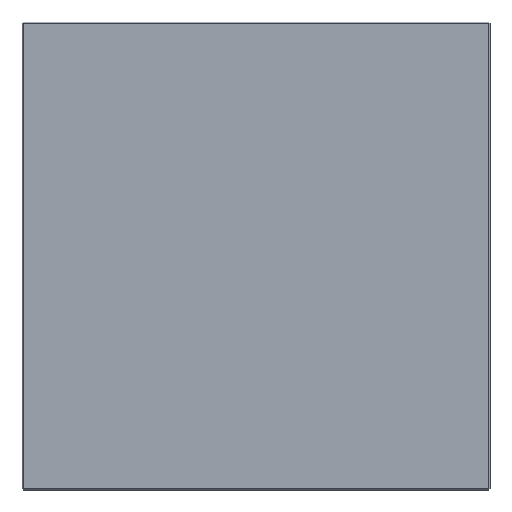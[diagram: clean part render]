
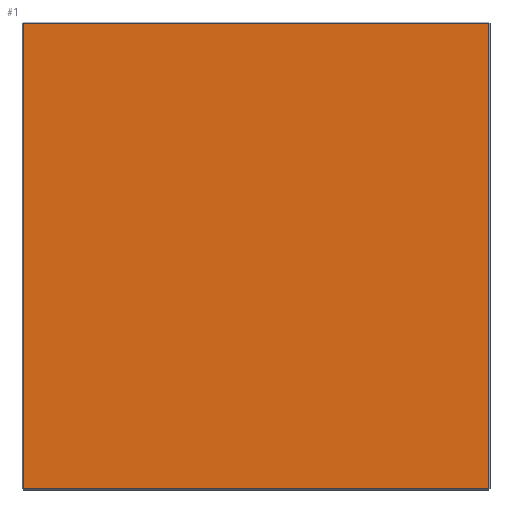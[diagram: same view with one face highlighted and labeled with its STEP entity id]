
A CAD part, front view. The second image highlights one B-rep face of the part: STEP entity #1.
In plain terms, the highlighted planar face has unit normal (0, -1, 0).
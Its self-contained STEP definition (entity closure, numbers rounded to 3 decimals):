
#1 = ADVANCED_FACE ( 'NONE', ( #143 ), #400, .F. ) ;
#14 = VECTOR ( 'NONE', #141, 1000. ) ;
#17 = EDGE_LOOP ( 'NONE', ( #339, #199, #88, #28 ) ) ;
#28 = ORIENTED_EDGE ( 'NONE', *, *, #257, .T. ) ;
#70 = LINE ( 'NONE', #71, #14 ) ;
#71 = CARTESIAN_POINT ( 'NONE',  ( 0., 0., 197. ) ) ;
#85 = CARTESIAN_POINT ( 'NONE',  ( -197., 0., 0. ) ) ;
#88 = ORIENTED_EDGE ( 'NONE', *, *, #542, .T. ) ;
#102 = LINE ( 'NONE', #459, #123 ) ;
#123 = VECTOR ( 'NONE', #214, 1000. ) ;
#131 = VECTOR ( 'NONE', #631, 1000. ) ;
#141 = DIRECTION ( 'NONE',  ( -1., 0., 0. ) ) ;
#143 = FACE_OUTER_BOUND ( 'NONE', #17, .T. ) ;
#150 = CARTESIAN_POINT ( 'NONE',  ( -197., 0., -197. ) ) ;
#151 = CARTESIAN_POINT ( 'NONE',  ( 197., 0., 197. ) ) ;
#171 = AXIS2_PLACEMENT_3D ( 'NONE', #525, #621, #614 ) ;
#173 = VERTEX_POINT ( 'NONE', #151 ) ;
#182 = VERTEX_POINT ( 'NONE', #336 ) ;
#188 = VERTEX_POINT ( 'NONE', #150 ) ;
#199 = ORIENTED_EDGE ( 'NONE', *, *, #223, .T. ) ;
#214 = DIRECTION ( 'NONE',  ( 1., 0., 0. ) ) ;
#222 = DIRECTION ( 'NONE',  ( 0., 0., 1. ) ) ;
#223 = EDGE_CURVE ( 'NONE', #173, #182, #70, .T. ) ;
#257 = EDGE_CURVE ( 'NONE', #188, #536, #102, .T. ) ;
#300 = LINE ( 'NONE', #85, #131 ) ;
#305 = LINE ( 'NONE', #380, #625 ) ;
#336 = CARTESIAN_POINT ( 'NONE',  ( -197., 0., 197. ) ) ;
#339 = ORIENTED_EDGE ( 'NONE', *, *, #350, .T. ) ;
#350 = EDGE_CURVE ( 'NONE', #536, #173, #305, .T. ) ;
#380 = CARTESIAN_POINT ( 'NONE',  ( 197., 0., 0. ) ) ;
#400 = PLANE ( 'NONE',  #171 ) ;
#459 = CARTESIAN_POINT ( 'NONE',  ( 0., 0., -197. ) ) ;
#525 = CARTESIAN_POINT ( 'NONE',  ( 0., 0., 0. ) ) ;
#536 = VERTEX_POINT ( 'NONE', #638 ) ;
#542 = EDGE_CURVE ( 'NONE', #182, #188, #300, .T. ) ;
#614 = DIRECTION ( 'NONE',  ( 0., 0., 1. ) ) ;
#621 = DIRECTION ( 'NONE',  ( 0., 1., 0. ) ) ;
#625 = VECTOR ( 'NONE', #222, 1000. ) ;
#631 = DIRECTION ( 'NONE',  ( 0., 0., -1. ) ) ;
#638 = CARTESIAN_POINT ( 'NONE',  ( 197., 0., -197. ) ) ;
